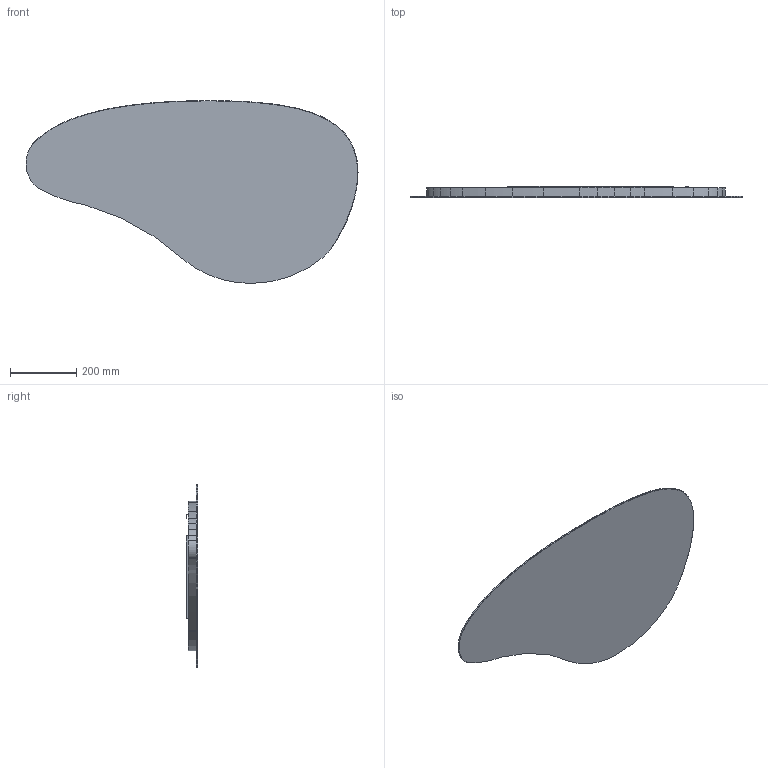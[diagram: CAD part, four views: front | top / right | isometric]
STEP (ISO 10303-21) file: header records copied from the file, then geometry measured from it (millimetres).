
FILE_DESCRIPTION(/* description */ ('Unknown'),/* implementation_level */ '2;1');
FILE_NAME(/* name */ 'Avea',/* time_stamp */ '2026-01-08T14:25:11+01:00',/* author */ ('Mariusz Kirko'),/* organization */ ('Kraft'),/* preprocessor_version */ 'ST-DEVELOPER v19.4',/* originating_system */ 'Solid Edge',/* authorisation */ 'Unknown');
FILE_SCHEMA (('AUTOMOTIVE_DESIGN {1 0 10303 214 3 1 1}'));
Length unit declared in the file: millimetre
Products named in the file (5): Avea plus zawieszki; Lustro; Ramka; 500x30; 250x30
Assembly tree (4 placements, depth 2):
  Avea plus zawieszki
    Lustro
    Ramka
    500x30
    250x30
Bounding box: 1000.15 x 34 x 550.54 mm (x, y, z)
Volume: 1745221.8 mm3; surface area: 1055096.2 mm2
Topology: 4 solids, 4 shells, 262 faces, 743 edges, 489 vertices
Faces by surface type: cylinder 150, plane 92, torus 20
Entity records: 8949 total; most frequent: DIRECTION 1612, CARTESIAN_POINT 1554, ORIENTED_EDGE 1486, EDGE_CURVE 743, AXIS2_PLACEMENT_3D 605, VERTEX_POINT 489, LINE 402, VECTOR 402
